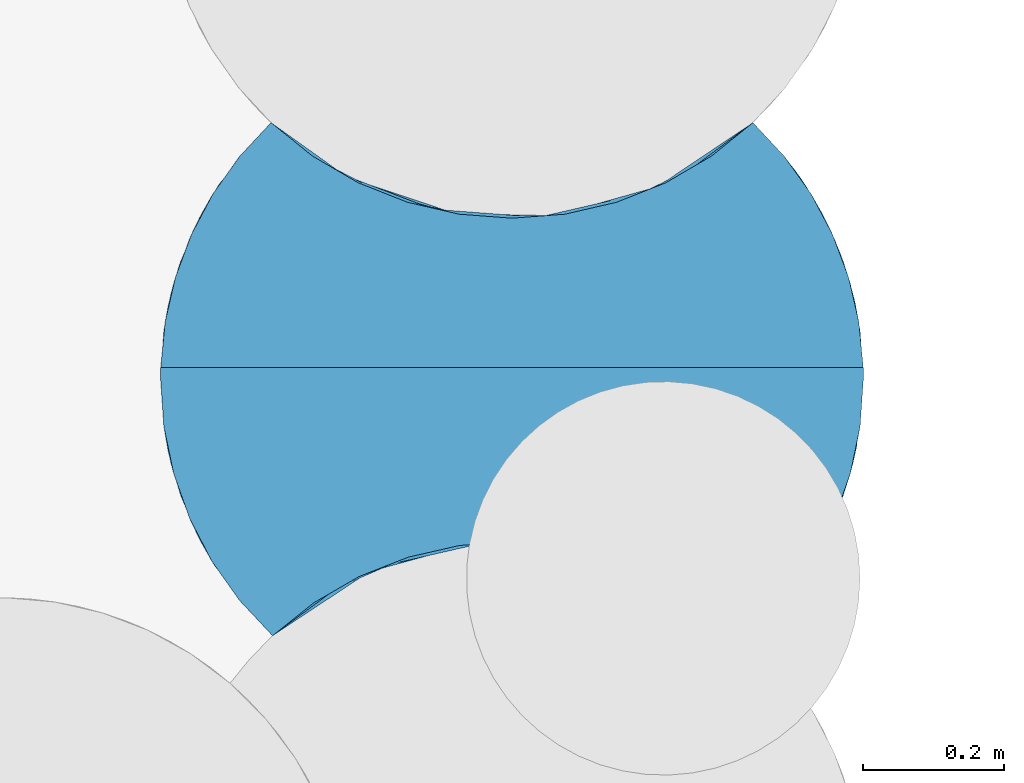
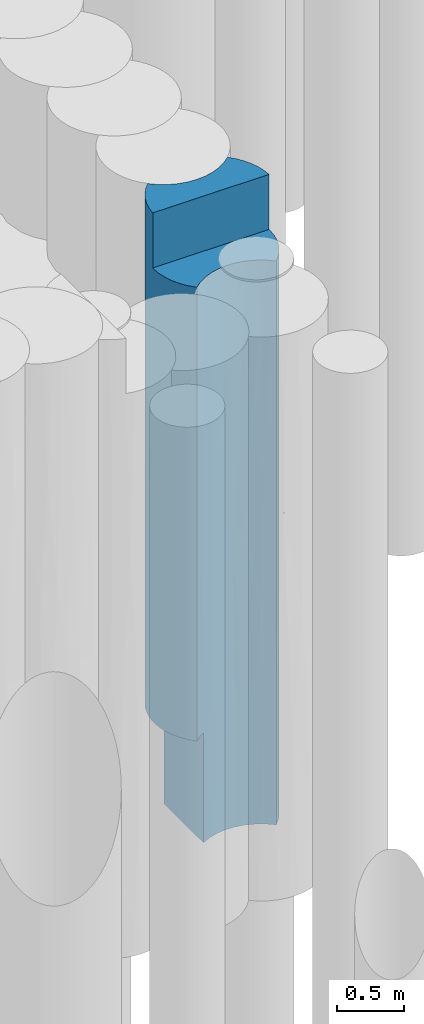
# One storey, part 42 of 104: 1 pile.
"""IFC2X3 building model written with IfcOpenShell, lengths in millimetres."""

from ifc_helpers import new_model, entity, si_unit, converted_unit, derived_unit, direction, frame, origin, place, context, subcontext, project, spatial, faceted_brep, source, transform, mapped, material, element, save


model = new_model("IFC2X3")

# Units and contexts
model_context = context("Model", 3, precision=0.01, world=origin(), true_north=direction((6.12303176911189e-17, 1.0)))
body_context = subcontext(model_context, "Body", "Model", "MODEL_VIEW")
ifc_project = project(units=[si_unit("LENGTHUNIT", "METRE", prefix="MILLI"), si_unit("AREAUNIT", "SQUARE_METRE", prefix="MILLI"), si_unit("VOLUMEUNIT", "CUBIC_METRE"), converted_unit("PLANEANGLEUNIT", "DEGREE", entity("IfcRatioMeasure", 0.0174532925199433), si_unit("PLANEANGLEUNIT", "RADIAN"), dimensions=[0, 0, 0, 0, 0, 0, 0]), si_unit("MASSUNIT", "GRAM", prefix="KILO"), derived_unit("MASSDENSITYUNIT", [(si_unit("MASSUNIT", "GRAM", prefix="KILO"), 1), (si_unit("LENGTHUNIT", "METRE"), -3)]), derived_unit("MOMENTOFINERTIAUNIT", [(si_unit("LENGTHUNIT", "METRE"), 4)]), si_unit("TIMEUNIT", "SECOND"), si_unit("FREQUENCYUNIT", "HERTZ"), si_unit("THERMODYNAMICTEMPERATUREUNIT", "DEGREE_CELSIUS"), derived_unit("THERMALTRANSMITTANCEUNIT", [(si_unit("MASSUNIT", "GRAM", prefix="KILO"), 1), (si_unit("THERMODYNAMICTEMPERATUREUNIT", "KELVIN"), -1), (si_unit("TIMEUNIT", "SECOND"), -3)]), derived_unit("VOLUMETRICFLOWRATEUNIT", [(si_unit("LENGTHUNIT", "METRE"), 3), (si_unit("TIMEUNIT", "SECOND"), -1)]), si_unit("ELECTRICCURRENTUNIT", "AMPERE"), si_unit("ELECTRICVOLTAGEUNIT", "VOLT"), si_unit("POWERUNIT", "WATT"), si_unit("FORCEUNIT", "NEWTON", prefix="KILO"), si_unit("ILLUMINANCEUNIT", "LUX"), si_unit("LUMINOUSFLUXUNIT", "LUMEN"), si_unit("LUMINOUSINTENSITYUNIT", "CANDELA"), derived_unit("USERDEFINED", [(si_unit("MASSUNIT", "GRAM", prefix="KILO"), -1), (si_unit("LENGTHUNIT", "METRE"), -2), (si_unit("TIMEUNIT", "SECOND"), 3), (si_unit("LUMINOUSFLUXUNIT", "LUMEN"), 1)]), derived_unit("LINEARVELOCITYUNIT", [(si_unit("LENGTHUNIT", "METRE"), 1), (si_unit("TIMEUNIT", "SECOND"), -1)]), si_unit("PRESSUREUNIT", "PASCAL"), derived_unit("USERDEFINED", [(si_unit("LENGTHUNIT", "METRE"), -2), (si_unit("MASSUNIT", "GRAM", prefix="KILO"), 1), (si_unit("TIMEUNIT", "SECOND"), -2)]), derived_unit("LINEARFORCEUNIT", [(si_unit("MASSUNIT", "GRAM", prefix="KILO"), 1), (si_unit("LENGTHUNIT", "METRE"), 1), (si_unit("TIMEUNIT", "SECOND"), -2), (si_unit("LENGTHUNIT", "METRE"), -1)]), derived_unit("PLANARFORCEUNIT", [(si_unit("MASSUNIT", "GRAM", prefix="KILO"), 1), (si_unit("LENGTHUNIT", "METRE"), 1), (si_unit("TIMEUNIT", "SECOND"), -2), (si_unit("LENGTHUNIT", "METRE"), -2)])], contexts=[model_context])

# Site, building, storey
site_placement = place(None, origin())
site = spatial("IfcSite", under=ifc_project, at=site_placement, Name="Theater aan de Parade", CompositionType="ELEMENT")
building_placement = place(site_placement, origin())
building = spatial("IfcBuilding", under=site, at=building_placement, Name="Theater aan de Parade", CompositionType="ELEMENT")
storey_placement = place(building_placement, frame((0.0, 0.0, -5520.0)))
storey = spatial("IfcBuildingStorey", under=building, at=storey_placement, Name="-2 kelder", CompositionType="ELEMENT", Elevation=-5520.0)

# Pile
ifc_material = material(Name="00_PBT_MAT_grout")
shared_shape = source(origin(), body_context, "Body", "Brep", [
    faceted_brep([(844.383836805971, 731.595272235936, 0.0), (890.54651868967, 681.787773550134, 0.0), (929.522999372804, 626.202813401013, 0.0), (960.609902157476, 565.851595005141, 0.0), (983.235934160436, 501.842330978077, 0.0), (996.98227680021, 435.35747194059, 0.0), (1001.59527223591, 367.595272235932, 0.0), (996.91614243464, 299.351330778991, 0.0), (982.970024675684, 232.397832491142, 0.0), (960.01867306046, 167.975670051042, 0.0), (928.493336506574, 107.291521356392, 0.0), (888.984702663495, 51.4791081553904, 0.0), (842.247587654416, 1.59527223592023, 0.0), (780.556365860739, 50.5419052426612, 0.0), (711.945146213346, 89.1952397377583, 0.0), (638.115920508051, 116.596428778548, 0.0), (560.900120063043, 132.065749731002, 0.0), (482.213184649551, 135.219465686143, 0.0), (404.007047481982, 125.979344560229, 0.0), (328.221714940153, 104.574599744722, 0.0), (256.737142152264, 71.5362041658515, 0.0), (256.737142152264, 659.654340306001, 0.0), (320.332660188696, 629.608292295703, 0.0), (387.514773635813, 608.783563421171, 0.0), (456.954548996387, 597.592053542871, 0.0), (527.278433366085, 596.255332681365, 0.0), (597.095332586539, 604.800265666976, 0.0), (665.024042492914, 623.058461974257, 0.0), (729.720490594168, 650.669565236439, 0.0), (789.902741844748, 687.087251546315, 0.0), (973.010578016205, 534.231431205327, 1584.2029292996), (1001.59527223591, 367.595272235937, 780.768863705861), (910.979243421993, 654.657572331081, 996.244002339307), (844.383836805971, 731.595272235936, 1561.53796445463), (920.205302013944, 641.028340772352, 2029.23113039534), (980.3435631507, 511.817579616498, 5620.0), (943.082727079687, 602.305364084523, 4706.37556903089), (957.466180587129, 572.977148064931, 5620.0), (988.739107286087, 480.249095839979, 4706.37489917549), (995.055416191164, 448.199777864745, 5620.0), (969.904341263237, 542.771229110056, 3955.15764686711), (926.814957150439, 630.631808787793, 5620.0), (1001.59527223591, 367.595272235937, 1996.92454517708), (990.621055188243, 471.776765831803, 3167.76265248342), (956.387426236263, 575.354981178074, 2896.01565049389), (888.910455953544, 683.80240128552, 5620.0), (1001.35083440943, 383.227868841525, 5120.0), (1001.35083440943, 383.227868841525, 5620.0), (1001.59527223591, 367.595272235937, 3558.4622725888), (844.383836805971, 731.595272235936, 4058.46263982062), (844.383836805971, 731.595272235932, 4215.0), (844.383836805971, 731.595272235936, 5620.0), (844.383836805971, 731.595272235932, 1405.0), (844.383836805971, 731.595272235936, 2496.92467536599), (917.13596819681, 645.670675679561, 3719.52607407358), (1001.53415904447, 375.412526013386, 5120.0), (1001.59527223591, 367.595272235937, 5120.0), (902.482416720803, 666.408754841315, 2866.54535663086), (844.383836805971, 731.595272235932, 2810.0), (6.27354540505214, 299.357548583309, 1000.0), (20.2171899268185, 232.409689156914, 1000.0), (15.7485968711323, 249.47242077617, 2372.28872387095), (160.942956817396, 1.59527223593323, 2561.52745298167), (79.0130120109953, 100.342146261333, 3207.17373229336), (57.8867159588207, 137.111613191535, 2250.88552663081), (1.5952722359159, 367.595272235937, 3558.45396286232), (30.5880065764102, 199.809230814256, 3376.99783618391), (12.1002941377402, 265.641035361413, 4163.43353153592), (43.1648481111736, 167.991799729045, 1000.0), (1.5952722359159, 367.595272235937, 2561.53133608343), (1.5952722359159, 367.595272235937, 1000.0), (114.189950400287, 51.4985835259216, 1000.0), (160.942956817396, 1.59527223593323, 1000.0), (160.942956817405, 1.59527223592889, 5120.0), (114.182152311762, 51.5081410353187, 5120.0), (160.942956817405, 1.59527223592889, 3558.47254701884), (57.8836822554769, 137.117453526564, 4163.43728728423), (43.1632986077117, 167.995358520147, 5120.0), (20.2175191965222, 232.40851667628, 5120.0), (74.6857064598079, 107.310384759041, 1000.0), (6.27447267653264, 299.35081807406, 5120.0), (1.5952722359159, 367.595272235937, 5120.0), (74.6808752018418, 107.318308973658, 5120.0), (785.695330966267, 684.150067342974, 5620.0), (720.53458465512, 646.078223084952, 5620.0), (650.386060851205, 618.247075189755, 5620.0), (576.847851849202, 601.290660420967, 5620.0), (501.595272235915, 595.595272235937, 5620.0), (426.342692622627, 601.290660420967, 5620.0), (352.804483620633, 618.247075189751, 5620.0), (282.655959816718, 646.078223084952, 5620.0), (217.495213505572, 684.15006734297, 5620.0), (158.806707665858, 731.595272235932, 5620.0), (114.287126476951, 683.811021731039, 5620.0), (76.3809636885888, 630.640499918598, 5620.0), (45.7274222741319, 572.98393641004, 5620.0), (22.8482126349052, 511.821666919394, 5620.0), (8.13517729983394, 448.200077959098, 5620.0), (1.83971006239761, 383.227868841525, 5620.0), (422.037626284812, 601.965268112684, 809.439239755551), (205.578323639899, 692.63874090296, 1000.0), (158.806707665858, 731.595272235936, 1000.0), (158.806707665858, 731.595272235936, 2496.9207520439), (158.806707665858, 731.595272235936, 2561.53770736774), (256.737142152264, 659.654340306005, 1000.0), (317.204383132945, 630.837270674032, 4600.85724456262), (562.337327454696, 599.298584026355, 1307.20068901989), (258.237007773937, 658.815287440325, 3390.49133173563), (225.507460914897, 678.731361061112, 4669.40036667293), (753.834283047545, 663.883005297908, 4692.95922475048), (340.972540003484, 622.09729136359, 1245.26829094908), (760.452843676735, 667.818744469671, 933.904601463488), (562.337327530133, 599.298584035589, 2802.30532647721), (539.329170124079, 597.021152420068, 4250.35305226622), (685.986161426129, 630.837270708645, 3987.22153552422), (341.790733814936, 621.820526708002, 2937.07933647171), (389.253215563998, 608.379445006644, 3777.86693941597), (441.601980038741, 599.207515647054, 2778.54310899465), (773.724086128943, 676.13620552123, 3787.61622226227), (677.041029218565, 627.387213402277, 849.093383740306), (672.457323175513, 625.69511310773, 4812.22637279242), (158.806707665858, 731.595272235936, 4123.0754147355), (267.680937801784, 653.685684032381, 2194.5411358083), (422.03762634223, 601.965268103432, 1681.09734198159), (415.046579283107, 603.142915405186, 4686.05792310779), (778.707993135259, 679.41197137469, 1759.56848415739), (697.858424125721, 635.724882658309, 1681.12039109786), (708.509039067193, 640.417622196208, 2842.65985011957), (158.806707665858, 731.595272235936, 4058.46037602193), (112.651806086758, 681.79740485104, 1000.0), (73.6691815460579, 626.205521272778, 1000.0), (57.0976621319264, 596.553509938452, 1952.36635480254), (1.83971006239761, 383.227868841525, 5120.0), (16.3462477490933, 488.149758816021, 4470.08846318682), (11.9480567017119, 468.815844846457, 1952.36635455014), (19.9506701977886, 501.828194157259, 1000.0), (6.20537477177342, 435.336319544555, 1000.0), (85.2094254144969, 644.403557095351, 2999.31426500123), (60.1119629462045, 602.313161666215, 4146.50369164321), (27.6723167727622, 526.959735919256, 3641.60139600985), (42.5776896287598, 565.844758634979, 1000.0), (30.1762795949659, 534.221000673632, 2736.34591364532), (1.65638542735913, 375.412526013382, 5120.0), (256.737142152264, 71.5362041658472, 1000.0), (206.758785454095, 39.4163292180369, 1000.0), (219.424779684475, 48.3661689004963, 5120.0), (284.235845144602, 85.8783825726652, 5120.0), (353.922404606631, 113.290493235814, 5120.0), (426.921349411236, 129.987631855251, 5120.0), (501.595272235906, 135.595272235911, 5120.0), (576.269195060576, 129.987631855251, 5120.0), (649.26813986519, 113.290493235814, 5120.0), (718.954699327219, 85.8783825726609, 5120.0), (783.765764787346, 48.366168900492, 5120.0), (842.247587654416, 1.59527223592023, 5120.0), (888.999743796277, 51.497541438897, 5120.0), (928.503664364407, 107.308459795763, 5120.0), (960.024135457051, 167.988214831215, 5120.0), (982.972001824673, 232.404872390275, 5120.0), (996.916167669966, 299.351513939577, 5120.0), (842.247587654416, 1.59527223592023, 780.76875950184), (755.60987009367, 66.2651969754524, 977.811347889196), (752.063486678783, 68.3373126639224, 4198.18332490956), (560.896092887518, 132.066230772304, 1496.56099313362), (842.247587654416, 1.5952722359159, 1561.53770632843), (842.247587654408, 1.59527223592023, 1996.92442698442), (675.57083306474, 104.351610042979, 1581.50545164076), (464.153182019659, 134.191391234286, 3774.10931506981), (613.081694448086, 123.007600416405, 4198.18332622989), (684.625323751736, 100.890877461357, 3495.34294667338), (592.42025666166, 127.276899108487, 3319.32860424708), (761.342777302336, 62.8320141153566, 1913.47130533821), (229.814329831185, 55.2798196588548, 3060.0), (442.927917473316, 132.141485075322, 1410.66862197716), (842.247587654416, 1.59527223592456, 3558.4619459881), (842.247587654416, 1.5952722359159, 4339.23114683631), (298.527635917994, 92.5017561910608, 2110.57600641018), (410.622092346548, 127.249500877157, 2530.75603769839), (689.84844215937, 98.8022929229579, 2533.94595708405), (769.311906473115, 57.8840404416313, 3168.07785077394), (539.037361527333, 134.191391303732, 2567.60181114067), (251.127057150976, 68.337312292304, 4105.3644572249), (343.538444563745, 109.955935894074, 4188.77641880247), (353.135385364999, 113.046486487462, 937.514545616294), (318.56521978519, 100.890877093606, 3284.55759617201), (842.247587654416, 1.59527223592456, 2777.69318648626), (842.247587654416, 1.5952722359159, 3123.07541265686), (972.597072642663, 199.793889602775, 1047.02741955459), (924.796898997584, 101.324013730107, 1006.54435556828), (987.266192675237, 248.751858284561, 2045.67193104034), (966.836065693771, 184.42594046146, 2743.67844221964), (945.294681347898, 137.094004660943, 1941.26712364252), (921.542936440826, 96.2210668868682, 2743.7660142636), (945.302407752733, 137.108878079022, 3546.18149405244), (992.051087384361, 270.368252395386, 2851.49413349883), (987.303040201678, 248.902542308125, 3657.67486863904)], [[[0, 1, 2, 3, 4, 5, 6, 7, 8, 9, 10, 11, 12, 13, 14, 15, 16, 17, 18, 19, 20, 21, 22, 23, 24, 25, 26, 27, 28, 29]], [[30, 31, 5]], [[32, 33, 34]], [[35, 36, 37]], [[4, 3, 30]], [[38, 35, 39]], [[38, 40, 36]], [[37, 36, 41]], [[30, 42, 31]], [[43, 30, 44]], [[36, 45, 41]], [[46, 39, 47]], [[48, 38, 46]], [[5, 4, 30]], [[31, 6, 5]], [[32, 3, 2]], [[38, 36, 35]], [[45, 49, 50, 51]], [[32, 0, 52, 33]], [[43, 44, 40]], [[34, 33, 53]], [[36, 54, 49]], [[48, 46, 55]], [[55, 56, 48]], [[48, 43, 38]], [[49, 54, 57]], [[45, 36, 49]], [[34, 57, 44]], [[2, 1, 32]], [[30, 3, 32]], [[39, 46, 38]], [[32, 1, 0]], [[54, 36, 40]], [[30, 32, 34]], [[44, 54, 40]], [[53, 57, 34]], [[40, 38, 43]], [[30, 34, 44]], [[48, 42, 43]], [[30, 43, 42]], [[57, 53, 58, 49]], [[44, 57, 54]], [[59, 60, 61]], [[62, 63, 64]], [[65, 66, 67]], [[61, 68, 64]], [[61, 64, 66]], [[59, 69, 70]], [[71, 72, 62]], [[73, 74, 75]], [[61, 65, 69]], [[76, 67, 66]], [[61, 66, 65]], [[75, 76, 63]], [[62, 64, 71]], [[63, 66, 64]], [[63, 62, 75]], [[77, 78, 76]], [[79, 64, 68]], [[80, 67, 78]], [[81, 65, 67]], [[67, 76, 78]], [[63, 76, 66]], [[74, 82, 76]], [[71, 64, 79]], [[74, 76, 75]], [[81, 67, 80]], [[77, 76, 82]], [[59, 61, 69]], [[68, 61, 60]], [[45, 51, 83, 84, 85, 86, 87, 88, 89, 90, 91, 92, 93, 94, 95, 96, 97, 98, 47, 39, 35, 37, 41]], [[24, 23, 99]], [[100, 101, 102, 103]], [[22, 21, 104]], [[90, 89, 105]], [[99, 106, 25]], [[107, 108, 105]], [[51, 109, 83]], [[99, 23, 110]], [[29, 111, 0]], [[112, 113, 114]], [[115, 116, 117]], [[114, 109, 118]], [[28, 27, 119]], [[113, 120, 114]], [[92, 108, 121]], [[105, 108, 90]], [[104, 100, 122]], [[106, 99, 123, 112]], [[105, 124, 116]], [[109, 50, 118]], [[26, 25, 106]], [[52, 111, 125]], [[117, 116, 113]], [[125, 111, 126]], [[126, 111, 119]], [[85, 84, 120]], [[126, 106, 112]], [[27, 26, 119]], [[111, 29, 28]], [[88, 87, 124]], [[111, 28, 119]], [[89, 88, 124]], [[87, 86, 113]], [[110, 23, 22]], [[112, 123, 117]], [[120, 113, 86]], [[114, 120, 109]], [[126, 112, 127]], [[127, 118, 58]], [[122, 110, 104]], [[0, 111, 52]], [[83, 109, 84]], [[124, 105, 89]], [[91, 90, 108]], [[107, 105, 116]], [[50, 109, 51]], [[25, 24, 99]], [[123, 99, 110]], [[107, 103, 128, 121]], [[103, 122, 100]], [[117, 123, 115]], [[104, 110, 22]], [[110, 122, 123]], [[107, 122, 103]], [[114, 118, 127]], [[118, 50, 49, 58]], [[114, 127, 112]], [[125, 126, 127]], [[124, 113, 116]], [[113, 124, 87]], [[119, 106, 126]], [[106, 119, 26]], [[125, 58, 53, 33, 52]], [[58, 125, 127]], [[109, 120, 84]], [[86, 85, 120]], [[112, 117, 113]], [[115, 107, 116]], [[115, 122, 107]], [[122, 115, 123]], [[91, 108, 92]], [[121, 108, 107]], [[129, 130, 131]], [[65, 132, 133]], [[134, 135, 136]], [[128, 137, 138]], [[139, 133, 138]], [[93, 92, 121, 128]], [[135, 134, 131, 140]], [[129, 102, 101]], [[140, 131, 130]], [[94, 138, 95]], [[93, 138, 94]], [[95, 133, 96]], [[93, 128, 138]], [[137, 139, 138]], [[69, 141, 134]], [[132, 65, 142]], [[65, 81, 142]], [[70, 134, 136]], [[102, 131, 137]], [[65, 133, 139]], [[133, 97, 96]], [[141, 69, 65]], [[98, 97, 132]], [[132, 97, 133]], [[70, 69, 134]], [[133, 95, 138]], [[141, 131, 134]], [[129, 131, 102]], [[137, 131, 141]], [[139, 137, 141]], [[137, 128, 103, 102]], [[65, 139, 141]], [[59, 70, 136, 135, 140, 130, 129, 101, 100, 104, 143, 144, 72, 71, 79, 68, 60]], [[104, 21, 20, 143]], [[80, 78, 77, 82, 74, 73, 145, 146, 147, 148, 149, 150, 151, 152, 153, 154, 155, 156, 157, 158, 159, 56, 55, 46, 132, 142, 81]], [[132, 46, 47, 98]], [[13, 160, 161]], [[153, 162, 154]], [[163, 17, 16]], [[161, 160, 164, 165]], [[166, 14, 161]], [[14, 166, 15]], [[167, 168, 149]], [[168, 162, 152, 151]], [[169, 168, 170]], [[171, 161, 165]], [[75, 62, 172]], [[173, 17, 163]], [[162, 168, 169]], [[162, 174, 175, 154]], [[176, 173, 177]], [[150, 168, 151]], [[62, 72, 144]], [[173, 18, 17]], [[178, 171, 179]], [[163, 180, 173]], [[181, 145, 73]], [[147, 146, 182]], [[19, 183, 143]], [[16, 15, 163]], [[180, 167, 177]], [[146, 145, 181]], [[143, 20, 19]], [[181, 184, 182]], [[170, 168, 167]], [[172, 62, 176]], [[148, 167, 149]], [[178, 170, 180]], [[171, 165, 185]], [[176, 62, 144]], [[181, 182, 146]], [[19, 18, 183]], [[184, 181, 172]], [[149, 168, 150]], [[13, 12, 160]], [[143, 176, 144]], [[167, 148, 182]], [[75, 181, 73]], [[153, 152, 162]], [[75, 172, 181]], [[176, 184, 172]], [[184, 176, 177]], [[173, 176, 183]], [[184, 177, 167]], [[177, 173, 180]], [[13, 161, 14]], [[171, 166, 161]], [[171, 178, 166]], [[179, 169, 178]], [[166, 178, 180]], [[162, 179, 174]], [[179, 185, 186, 174]], [[171, 185, 179]], [[169, 179, 162]], [[169, 170, 178]], [[180, 170, 167]], [[147, 182, 148]], [[182, 184, 167]], [[163, 166, 180]], [[15, 166, 163]], [[143, 183, 176]], [[173, 183, 18]], [[187, 188, 9]], [[155, 154, 175]], [[189, 31, 42]], [[31, 187, 7]], [[10, 9, 188]], [[190, 191, 189]], [[192, 164, 191]], [[157, 156, 193]], [[155, 175, 193]], [[187, 31, 189]], [[193, 175, 174, 186]], [[194, 42, 48]], [[9, 8, 187]], [[11, 164, 160, 12]], [[7, 6, 31]], [[195, 159, 158]], [[159, 48, 56]], [[156, 155, 193]], [[190, 189, 194]], [[188, 11, 10]], [[190, 192, 191]], [[190, 195, 193]], [[191, 187, 189]], [[188, 187, 191]], [[7, 187, 8]], [[193, 195, 157]], [[191, 164, 188]], [[11, 188, 164]], [[190, 194, 195]], [[192, 190, 193]], [[159, 195, 48]], [[157, 195, 158]], [[193, 186, 192]], [[192, 186, 185, 165, 164]], [[42, 194, 189]], [[48, 195, 194]]]),
])
pile_placement = place(storey_placement, frame((38948.2628578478, 23106.7721311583, -3840.0)))
element("IfcPile", 1, at=pile_placement, inside=storey, material=ifc_material, Name="17_PBT_SFO_grondkering_rond:Ø1000 (grondkering)", ObjectType="17_PBT_SFO_grondkering_rond:Ø1000 (grondkering)", PredefinedType="NOTDEFINED", context=body_context, shape_type="MappedRepresentation", body=[
    mapped(shared_shape, transform((0.0, 0.0, 0.0), scale=1.0)),
])

save(model, "model.ifc")
